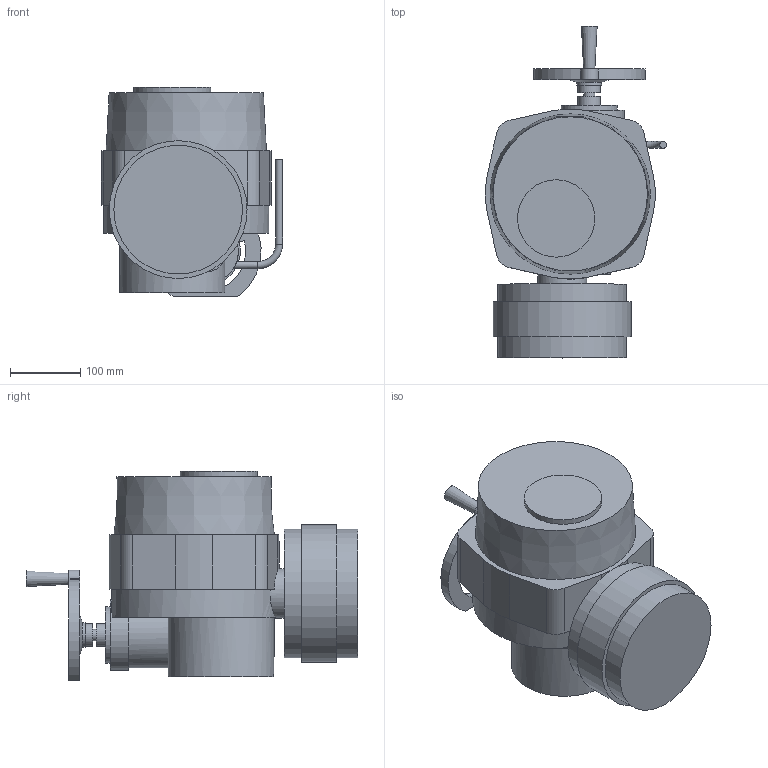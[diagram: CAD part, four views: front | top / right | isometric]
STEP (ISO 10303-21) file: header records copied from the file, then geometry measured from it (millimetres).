
FILE_DESCRIPTION(('STEP AP203'), '1');
FILE_NAME('Ýëåêòðîïðèâîä QT.A 030 ñ ïîçèöèîíåðîì', '', ('UNSPECIFIED'), ('UNSPECIFIED'), 'ASCON STEP Converter 1.6', 'ASCON Math Kernel', '');
FILE_SCHEMA(('CONFIG_CONTROL_DESIGN'));
Length unit declared in the file: millimetre
Bounding box: 257.68 x 472 x 298 mm (x, y, z)
Volume: 14320070.9 mm3; surface area: 494037 mm2
Topology: 1 solids, 1 shells, 100 faces, 223 edges, 147 vertices
Faces by surface type: plane 52, cylinder 44, cone 3, torus 1
Full cylindrical faces by diameter (mm): 8.5 x4, 10 x2, 10.25 x4, 16 x1, 32 x3, 35 x1, 70 x1, 80 x1, 100 x1, 110 x1, 150 x1, 183 x2, 196 x1
Entity records: 4279 total; most frequent: CARTESIAN_POINT 1225, DIRECTION 485, ORIENTED_EDGE 392, AXIS2_PLACEMENT_3D 200, EDGE_CURVE 196, EDGE_LOOP 155, VERTEX_POINT 147, FACE_BOUND 104
